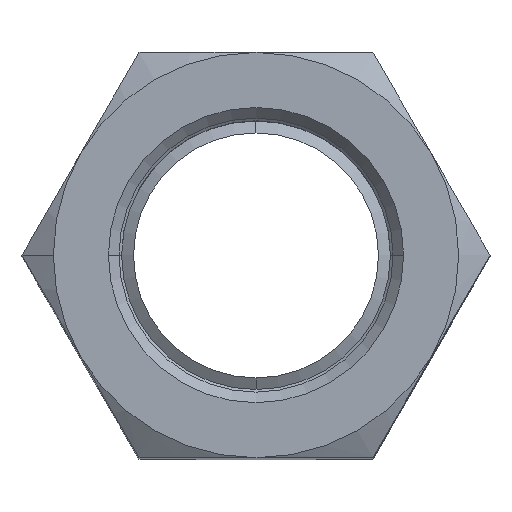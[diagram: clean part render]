
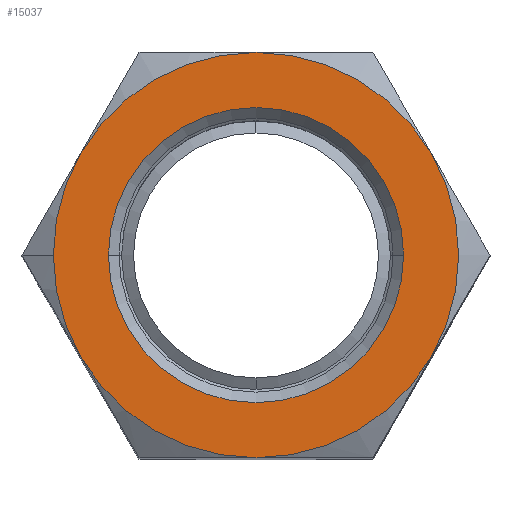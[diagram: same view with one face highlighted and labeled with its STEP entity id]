
A CAD part, top view. The second image highlights one B-rep face of the part: STEP entity #15037.
In plain terms, the highlighted planar face has unit normal (0, 0, 1).
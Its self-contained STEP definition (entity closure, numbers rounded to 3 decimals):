
#11 = EDGE_CURVE ( 'NONE', #17242, #3527, #4427, .T. ) ;
#24 = VERTEX_POINT ( 'NONE', #7886 ) ;
#128 = AXIS2_PLACEMENT_3D ( 'NONE', #12725, #4611, #14058 ) ;
#168 = CARTESIAN_POINT ( 'NONE',  ( -26.558, 0., 58.5 ) ) ;
#756 = CARTESIAN_POINT ( 'NONE',  ( 19.919, -11.5, 58.5 ) ) ;
#1086 = CARTESIAN_POINT ( 'NONE',  ( 19.919, 11.5, 58.5 ) ) ;
#1585 = DIRECTION ( 'NONE',  ( 1., 0., 0. ) ) ;
#1664 = EDGE_CURVE ( 'NONE', #8022, #17242, #15043, .T. ) ;
#1985 = AXIS2_PLACEMENT_3D ( 'NONE', #13503, #13562, #12674 ) ;
#2011 = EDGE_CURVE ( 'NONE', #3527, #13320, #13656, .T. ) ;
#2664 = AXIS2_PLACEMENT_3D ( 'NONE', #16682, #16661, #16642 ) ;
#3092 = CIRCLE ( 'NONE', #8825, 23. ) ;
#3523 = EDGE_CURVE ( 'NONE', #13320, #24, #15008, .T. ) ;
#3527 = VERTEX_POINT ( 'NONE', #12669 ) ;
#3650 = EDGE_CURVE ( 'NONE', #13692, #8022, #11056, .T. ) ;
#3975 = DIRECTION ( 'NONE',  ( 0., 0., -1. ) ) ;
#4216 = CARTESIAN_POINT ( 'NONE',  ( -23., 0., 58.5 ) ) ;
#4225 = PLANE ( 'NONE',  #5983 ) ;
#4427 = CIRCLE ( 'NONE', #14472, 23. ) ;
#4611 = DIRECTION ( 'NONE',  ( 0., 0., -1. ) ) ;
#5114 = VERTEX_POINT ( 'NONE', #10912 ) ;
#5877 = FACE_OUTER_BOUND ( 'NONE', #12692, .T. ) ;
#5983 = AXIS2_PLACEMENT_3D ( 'NONE', #168, #9802, #1585 ) ;
#6336 = FACE_BOUND ( 'NONE', #9635, .T. ) ;
#6464 = CARTESIAN_POINT ( 'NONE',  ( 0., 0., 58.5 ) ) ;
#6735 = CARTESIAN_POINT ( 'NONE',  ( 16.75, 0., 58.5 ) ) ;
#6837 = ORIENTED_EDGE ( 'NONE', *, *, #12083, .T. ) ;
#7280 = DIRECTION ( 'NONE',  ( 1., 0., 0. ) ) ;
#7348 = CARTESIAN_POINT ( 'NONE',  ( 0., 0., 58.5 ) ) ;
#7623 = DIRECTION ( 'NONE',  ( 0., 0., -1. ) ) ;
#7680 = CARTESIAN_POINT ( 'NONE',  ( 0., 0., 58.5 ) ) ;
#7777 = AXIS2_PLACEMENT_3D ( 'NONE', #12128, #3975, #13473 ) ;
#7802 = ORIENTED_EDGE ( 'NONE', *, *, #3523, .F. ) ;
#7811 = DIRECTION ( 'NONE',  ( 1., 0., 0. ) ) ;
#7886 = CARTESIAN_POINT ( 'NONE',  ( -19.919, 11.5, 58.5 ) ) ;
#8022 = VERTEX_POINT ( 'NONE', #756 ) ;
#8534 = AXIS2_PLACEMENT_3D ( 'NONE', #12367, #12314, #12348 ) ;
#8698 = DIRECTION ( 'NONE',  ( -1., 0., 0. ) ) ;
#8825 = AXIS2_PLACEMENT_3D ( 'NONE', #7348, #16707, #8698 ) ;
#9105 = CIRCLE ( 'NONE', #128, 16.75 ) ;
#9635 = EDGE_LOOP ( 'NONE', ( #12897, #6837 ) ) ;
#9802 = DIRECTION ( 'NONE',  ( 0., 0., 1. ) ) ;
#10034 = ORIENTED_EDGE ( 'NONE', *, *, #16162, .F. ) ;
#10076 = ORIENTED_EDGE ( 'NONE', *, *, #2011, .F. ) ;
#10912 = CARTESIAN_POINT ( 'NONE',  ( 0., 23., 58.5 ) ) ;
#11056 = CIRCLE ( 'NONE', #2664, 23. ) ;
#12083 = EDGE_CURVE ( 'NONE', #12654, #15423, #16498, .T. ) ;
#12128 = CARTESIAN_POINT ( 'NONE',  ( 0., 0., 58.5 ) ) ;
#12314 = DIRECTION ( 'NONE',  ( 0., 0., -1. ) ) ;
#12348 = DIRECTION ( 'NONE',  ( 1., 0., 0. ) ) ;
#12367 = CARTESIAN_POINT ( 'NONE',  ( 0., 0., 58.5 ) ) ;
#12442 = ORIENTED_EDGE ( 'NONE', *, *, #1664, .F. ) ;
#12654 = VERTEX_POINT ( 'NONE', #13696 ) ;
#12669 = CARTESIAN_POINT ( 'NONE',  ( -19.919, -11.5, 58.5 ) ) ;
#12674 = DIRECTION ( 'NONE',  ( 1., 0., 0. ) ) ;
#12692 = EDGE_LOOP ( 'NONE', ( #12442, #15269, #15092, #10034, #7802, #10076, #15815 ) ) ;
#12725 = CARTESIAN_POINT ( 'NONE',  ( 0., 0., 58.5 ) ) ;
#12897 = ORIENTED_EDGE ( 'NONE', *, *, #13407, .T. ) ;
#13130 = CARTESIAN_POINT ( 'NONE',  ( 0., -23., 58.5 ) ) ;
#13320 = VERTEX_POINT ( 'NONE', #4216 ) ;
#13407 = EDGE_CURVE ( 'NONE', #15423, #12654, #9105, .T. ) ;
#13473 = DIRECTION ( 'NONE',  ( 1., 0., 0. ) ) ;
#13503 = CARTESIAN_POINT ( 'NONE',  ( 0., 0., 58.5 ) ) ;
#13562 = DIRECTION ( 'NONE',  ( 0., 0., -1. ) ) ;
#13656 = CIRCLE ( 'NONE', #17099, 23. ) ;
#13692 = VERTEX_POINT ( 'NONE', #1086 ) ;
#13696 = CARTESIAN_POINT ( 'NONE',  ( -16.75, 0., 58.5 ) ) ;
#14058 = DIRECTION ( 'NONE',  ( 1., 0., 0. ) ) ;
#14472 = AXIS2_PLACEMENT_3D ( 'NONE', #7680, #7623, #7280 ) ;
#14637 = AXIS2_PLACEMENT_3D ( 'NONE', #6464, #15820, #7811 ) ;
#15008 = CIRCLE ( 'NONE', #8534, 23. ) ;
#15028 = DIRECTION ( 'NONE',  ( 1., 0., 0. ) ) ;
#15037 = ADVANCED_FACE ( 'NONE', ( #6336, #5877 ), #4225, .T. ) ;
#15043 = CIRCLE ( 'NONE', #1985, 23. ) ;
#15092 = ORIENTED_EDGE ( 'NONE', *, *, #17466, .F. ) ;
#15094 = DIRECTION ( 'NONE',  ( 0., 0., -1. ) ) ;
#15159 = CARTESIAN_POINT ( 'NONE',  ( 0., 0., 58.5 ) ) ;
#15269 = ORIENTED_EDGE ( 'NONE', *, *, #3650, .F. ) ;
#15423 = VERTEX_POINT ( 'NONE', #6735 ) ;
#15815 = ORIENTED_EDGE ( 'NONE', *, *, #11, .F. ) ;
#15820 = DIRECTION ( 'NONE',  ( 0., 0., -1. ) ) ;
#16162 = EDGE_CURVE ( 'NONE', #24, #5114, #3092, .T. ) ;
#16481 = CIRCLE ( 'NONE', #14637, 23. ) ;
#16498 = CIRCLE ( 'NONE', #7777, 16.75 ) ;
#16642 = DIRECTION ( 'NONE',  ( 1., 0., 0. ) ) ;
#16661 = DIRECTION ( 'NONE',  ( 0., 0., -1. ) ) ;
#16682 = CARTESIAN_POINT ( 'NONE',  ( 0., 0., 58.5 ) ) ;
#16707 = DIRECTION ( 'NONE',  ( 0., 0., -1. ) ) ;
#17099 = AXIS2_PLACEMENT_3D ( 'NONE', #15159, #15094, #15028 ) ;
#17242 = VERTEX_POINT ( 'NONE', #13130 ) ;
#17466 = EDGE_CURVE ( 'NONE', #5114, #13692, #16481, .T. ) ;
